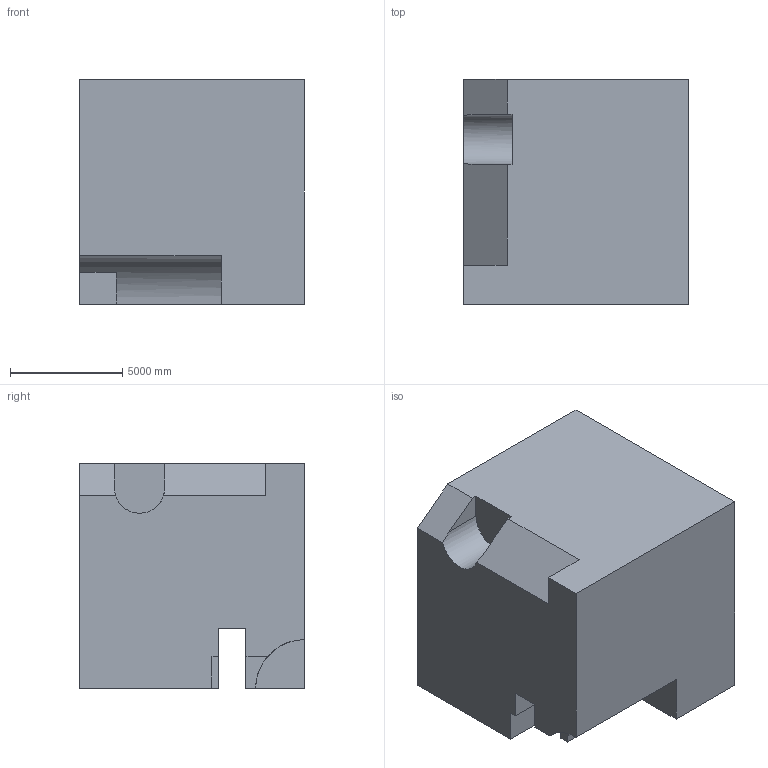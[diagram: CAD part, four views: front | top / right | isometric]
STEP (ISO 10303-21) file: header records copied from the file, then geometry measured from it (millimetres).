
FILE_DESCRIPTION (( 'STEP AP203' ), '1' );
FILE_NAME ('136.STEP', '2022-08-31T11:49:36', ( 'user' ), ( '' ), 'SwSTEP 2.0', 'SolidWorks 2021', '' );
FILE_SCHEMA (( 'CONFIG_CONTROL_DESIGN' ));
Length unit declared in the file: centimetre
Products named in the file (1): 136
Bounding box: 10000 x 10000 x 10000 mm (x, y, z)
Volume: 880056246340.5 mm3; surface area: 706323206.2 mm2
Topology: 1 solids, 1 shells, 35 faces, 96 edges, 64 vertices
Faces by surface type: plane 33, cylinder 2
Entity records: 1172 total; most frequent: CARTESIAN_POINT 202, ORIENTED_EDGE 192, DIRECTION 171, EDGE_CURVE 96, VECTOR 89, LINE 89, VERTEX_POINT 64, AXIS2_PLACEMENT_3D 41
